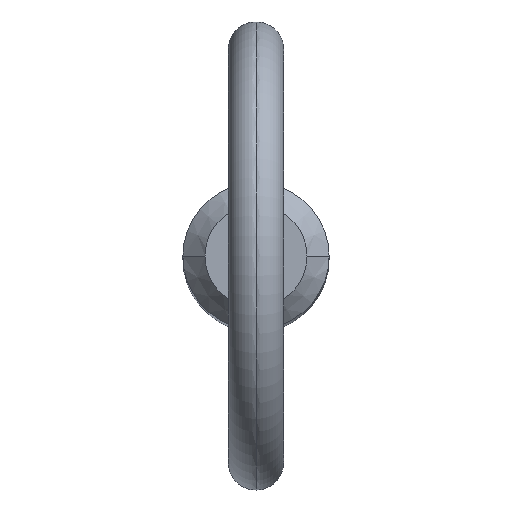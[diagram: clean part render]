
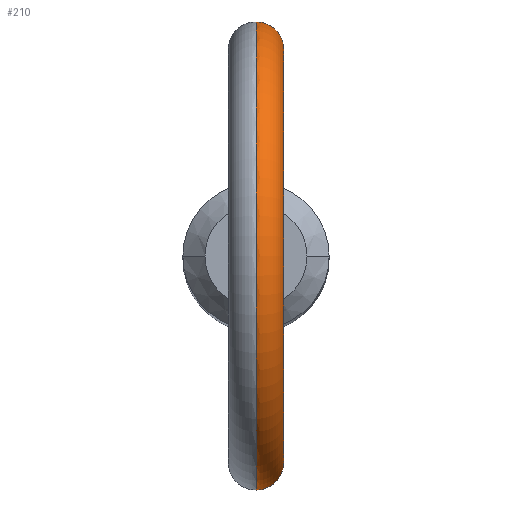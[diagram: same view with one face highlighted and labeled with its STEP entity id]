
A CAD part, top view. The second image highlights one B-rep face of the part: STEP entity #210.
In plain terms, the highlighted toroidal (fillet/blend) face has major radius 11.2 mm and minor radius 1.5 mm.
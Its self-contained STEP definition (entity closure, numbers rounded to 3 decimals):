
#5 = TOROIDAL_SURFACE ( 'NONE', #69, 11.2, 1.5 ) ;
#8 = CARTESIAN_POINT ( 'NONE',  ( 0., -3.965, 71.735 ) ) ;
#10 = CARTESIAN_POINT ( 'NONE',  ( 1.434, -3.697, 73.705 ) ) ;
#31 = DIRECTION ( 'NONE',  ( 1., 0., 0. ) ) ;
#39 = CARTESIAN_POINT ( 'NONE',  ( 0.949, 3.851, 72.049 ) ) ;
#43 = EDGE_CURVE ( 'NONE', #243, #217, #120, .T. ) ;
#44 = CARTESIAN_POINT ( 'NONE',  ( 1.47, 3.682, 72.892 ) ) ;
#47 = CARTESIAN_POINT ( 'NONE',  ( 1.291, 3.75, 74.084 ) ) ;
#49 = CARTESIAN_POINT ( 'NONE',  ( 0.206, 3.965, 74.947 ) ) ;
#50 = VERTEX_POINT ( 'NONE', #495 ) ;
#52 = CARTESIAN_POINT ( 'NONE',  ( 1.237, -3.77, 72.331 ) ) ;
#56 = CARTESIAN_POINT ( 'NONE',  ( 1.503, -3.669, 73.199 ) ) ;
#66 = DIRECTION ( 'NONE',  ( 0., 0., -1. ) ) ;
#69 = AXIS2_PLACEMENT_3D ( 'NONE', #427, #163, #437 ) ;
#76 = CARTESIAN_POINT ( 'NONE',  ( 0., 3.965, 71.735 ) ) ;
#78 = CARTESIAN_POINT ( 'NONE',  ( 1.236, 3.77, 72.329 ) ) ;
#85 = CARTESIAN_POINT ( 'NONE',  ( 1.028, -3.83, 72.115 ) ) ;
#86 = CARTESIAN_POINT ( 'NONE',  ( 0., -3.965, 74.947 ) ) ;
#88 = CARTESIAN_POINT ( 'NONE',  ( 1.471, -3.682, 72.894 ) ) ;
#93 = CARTESIAN_POINT ( 'NONE',  ( 0.409, -3.948, 71.774 ) ) ;
#110 = CARTESIAN_POINT ( 'NONE',  ( 1.026, 3.831, 72.113 ) ) ;
#116 = CARTESIAN_POINT ( 'NONE',  ( 0.927, 3.858, 74.567 ) ) ;
#120 = CIRCLE ( 'NONE', #504, 9.7 ) ;
#123 = CARTESIAN_POINT ( 'NONE',  ( 1.186, -3.786, 74.259 ) ) ;
#148 = DIRECTION ( 'NONE',  ( 0., 0., -1. ) ) ;
#154 = CARTESIAN_POINT ( 'NONE',  ( 0.769, 3.894, 74.701 ) ) ;
#160 = EDGE_CURVE ( 'NONE', #50, #277, #185, .T. ) ;
#163 = DIRECTION ( 'NONE',  ( 1., 0., 0. ) ) ;
#165 = CARTESIAN_POINT ( 'NONE',  ( 1.447, -3.692, 72.793 ) ) ;
#170 = CARTESIAN_POINT ( 'NONE',  ( 1.499, -3.671, 73.097 ) ) ;
#172 = CARTESIAN_POINT ( 'NONE',  ( 0.498, -3.935, 74.844 ) ) ;
#179 = CARTESIAN_POINT ( 'NONE',  ( 0.205, -3.965, 71.735 ) ) ;
#185 = CIRCLE ( 'NONE', #502, 12.7 ) ;
#193 = CARTESIAN_POINT ( 'NONE',  ( 0., 3.965, 74.947 ) ) ;
#199 = CARTESIAN_POINT ( 'NONE',  ( 0.41, 3.948, 71.774 ) ) ;
#201 = CARTESIAN_POINT ( 'NONE',  ( 1.447, 3.692, 72.793 ) ) ;
#210 = ADVANCED_FACE ( 'NONE', ( #423 ), #5, .T. ) ;
#217 = VERTEX_POINT ( 'NONE', #397 ) ;
#219 = EDGE_CURVE ( 'NONE', #50, #243, #324, .T. ) ;
#238 = CARTESIAN_POINT ( 'NONE',  ( 0.102, -3.965, 74.947 ) ) ;
#241 = CARTESIAN_POINT ( 'NONE',  ( 0.925, -3.858, 74.568 ) ) ;
#243 = VERTEX_POINT ( 'NONE', #433 ) ;
#246 = CARTESIAN_POINT ( 'NONE',  ( 1.404, -3.708, 73.801 ) ) ;
#266 = ORIENTED_EDGE ( 'NONE', *, *, #373, .F. ) ;
#273 = CARTESIAN_POINT ( 'NONE',  ( 0.782, 3.888, 71.937 ) ) ;
#276 = CARTESIAN_POINT ( 'NONE',  ( 1.344, 3.731, 72.503 ) ) ;
#277 = VERTEX_POINT ( 'NONE', #8 ) ;
#279 = CARTESIAN_POINT ( 'NONE',  ( 0.411, 3.948, 74.891 ) ) ;
#293 = CARTESIAN_POINT ( 'NONE',  ( 0., 0., 83.8 ) ) ;
#318 = CARTESIAN_POINT ( 'NONE',  ( 1.185, 3.786, 74.26 ) ) ;
#322 = CARTESIAN_POINT ( 'NONE',  ( 1.493, -3.673, 73.404 ) ) ;
#324 = B_SPLINE_CURVE_WITH_KNOTS ( 'NONE', 3,
 ( #76, #513, #199, #353, #273, #39, #110, #78, #276, #201, #44, #510, #479, #392, #477, #47, #318, #116, #154, #279, #49, #193 ),
 .UNSPECIFIED., .F., .F.,
 ( 4, 2, 2, 2, 2, 2, 2, 2, 2, 2, 4 ),
 ( 0.001, 0.001, 0.002, 0.002, 0.003, 0.003, 0.003, 0.004, 0.004, 0.005, 0.006 ),
 .UNSPECIFIED. ) ;
#328 = CARTESIAN_POINT ( 'NONE',  ( 0.205, -3.961, 74.934 ) ) ;
#353 = CARTESIAN_POINT ( 'NONE',  ( 0.691, 3.905, 71.889 ) ) ;
#356 = ORIENTED_EDGE ( 'NONE', *, *, #219, .F. ) ;
#361 = CARTESIAN_POINT ( 'NONE',  ( 0.782, -3.888, 71.937 ) ) ;
#373 = EDGE_CURVE ( 'NONE', #217, #277, #483, .T. ) ;
#387 = CARTESIAN_POINT ( 'NONE',  ( 0., 0., 83.8 ) ) ;
#392 = CARTESIAN_POINT ( 'NONE',  ( 1.488, 3.675, 73.505 ) ) ;
#395 = EDGE_LOOP ( 'NONE', ( #356, #478, #266, #445 ) ) ;
#397 = CARTESIAN_POINT ( 'NONE',  ( 0., -3.965, 74.947 ) ) ;
#399 = CARTESIAN_POINT ( 'NONE',  ( 1.291, -3.75, 74.083 ) ) ;
#400 = CARTESIAN_POINT ( 'NONE',  ( 0.949, -3.851, 72.049 ) ) ;
#401 = CARTESIAN_POINT ( 'NONE',  ( 0.77, -3.894, 74.7 ) ) ;
#408 = CARTESIAN_POINT ( 'NONE',  ( 0., -3.965, 71.735 ) ) ;
#411 = CARTESIAN_POINT ( 'NONE',  ( 0.693, -3.905, 71.89 ) ) ;
#423 = FACE_OUTER_BOUND ( 'NONE', #395, .T. ) ;
#425 = DIRECTION ( 'NONE',  ( 1., 0., 0. ) ) ;
#427 = CARTESIAN_POINT ( 'NONE',  ( 0., 0., 83.8 ) ) ;
#433 = CARTESIAN_POINT ( 'NONE',  ( 0., 3.965, 74.947 ) ) ;
#437 = DIRECTION ( 'NONE',  ( 0., 0., -1. ) ) ;
#439 = CARTESIAN_POINT ( 'NONE',  ( 1.346, -3.73, 72.508 ) ) ;
#445 = ORIENTED_EDGE ( 'NONE', *, *, #43, .F. ) ;
#449 = CARTESIAN_POINT ( 'NONE',  ( 1.479, -3.679, 73.507 ) ) ;
#477 = CARTESIAN_POINT ( 'NONE',  ( 1.441, 3.695, 73.708 ) ) ;
#478 = ORIENTED_EDGE ( 'NONE', *, *, #160, .T. ) ;
#479 = CARTESIAN_POINT ( 'NONE',  ( 1.503, 3.669, 73.198 ) ) ;
#483 = B_SPLINE_CURVE_WITH_KNOTS ( 'NONE', 3,
 ( #86, #238, #328, #485, #172, #401, #241, #123, #399, #246, #10, #449, #322, #56, #170, #88, #165, #439, #52, #85, #400, #361, #411, #93, #179, #408 ),
 .UNSPECIFIED., .F., .F.,
 ( 4, 2, 2, 2, 2, 2, 2, 2, 2, 2, 2, 2, 4 ),
 ( 0.004, 0.005, 0.005, 0.005, 0.006, 0.006, 0.007, 0.007, 0.007, 0.008, 0.008, 0.008, 0.009 ),
 .UNSPECIFIED. ) ;
#485 = CARTESIAN_POINT ( 'NONE',  ( 0.404, -3.946, 74.882 ) ) ;
#495 = CARTESIAN_POINT ( 'NONE',  ( 0., 3.965, 71.735 ) ) ;
#502 = AXIS2_PLACEMENT_3D ( 'NONE', #387, #425, #148 ) ;
#504 = AXIS2_PLACEMENT_3D ( 'NONE', #293, #31, #66 ) ;
#510 = CARTESIAN_POINT ( 'NONE',  ( 1.499, 3.671, 73.094 ) ) ;
#513 = CARTESIAN_POINT ( 'NONE',  ( 0.204, 3.965, 71.735 ) ) ;
